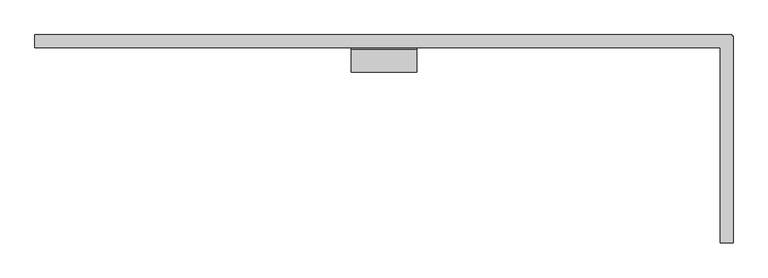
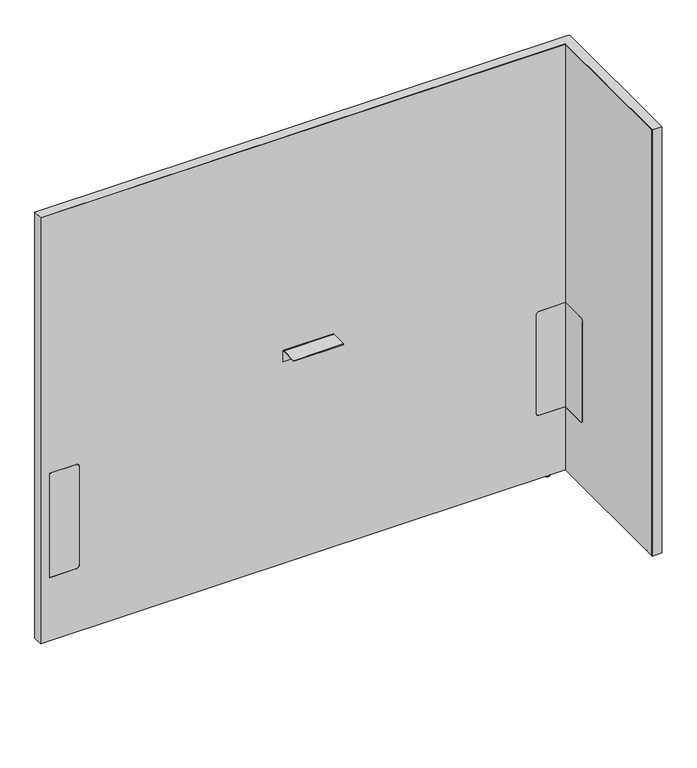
"""IFC4 building model written with IfcOpenShell, lengths in millimetres: furniture geometry, Steelcase - Answer Solution - Boundary Screen - L Return - Single Sided : 54H x 63W."""

import ifcopenshell
import ifcopenshell.guid

model = None  # the IFC model being written
_history = None  # IfcOwnerHistory: only IFC2X3 demands one
_inside = {}  # id of a spatial element -> (the spatial element, [elements in it])
_under = {}  # id of a project, library or spatial element -> (it, [spatial elements below it])
_declared = {}  # id of a project -> (the project, [libraries it declares])
_typed = {}  # id of a type object -> (the type object, [elements of that type])
_made_of = {}  # id of a material, layer set ... -> (it, [elements and type objects made of it])


def new_model(schema):
    """Start an empty IFC model of exactly this schema.

    Asked for "IFC4X3", IfcOpenShell would pick the latest addendum, in which some entities
    have other attributes; the version numbers below select the first issue.
    IFC2X3 requires an IfcOwnerHistory on every rooted entity: one is made here for all.
    """
    global model, _history
    if schema == "IFC4X3":
        model = ifcopenshell.file(schema_version=(4, 3, 0, 0))
    else:
        model = ifcopenshell.file(schema=schema)
    _inside.clear()
    _under.clear()
    _declared.clear()
    _typed.clear()
    _made_of.clear()
    _history = None
    if model.schema == "IFC2X3":
        org = make("IfcOrganization", Name="unknown")
        user = make(
            "IfcPersonAndOrganization",
            ThePerson=make("IfcPerson", FamilyName="unknown"),
            TheOrganization=org,
        )
        app = make(
            "IfcApplication",
            ApplicationDeveloper=org,
            Version="unknown",
            ApplicationFullName="unknown",
            ApplicationIdentifier="unknown",
        )
        _history = make(
            "IfcOwnerHistory",
            OwningUser=user,
            OwningApplication=app,
            ChangeAction="ADDED",
            CreationDate=0,
        )
    return model


def make(cls, **values):
    """One entity of the class cls with the attributes given. An attribute that is None is left unset."""
    return model.create_entity(
        cls, **{name: value for name, value in values.items() if value is not None}
    )


def rooted(cls, **values):
    """An entity with a GlobalId (a new one), such as an element, a storey or a relation."""
    return make(cls, GlobalId=ifcopenshell.guid.new(), OwnerHistory=_history, **values)


def si_unit(unit_type, name, prefix=None):
    """IfcSIUnit, for example si_unit("LENGTHUNIT", "METRE", prefix="MILLI")."""
    return make("IfcSIUnit", UnitType=unit_type, Prefix=prefix, Name=name)


def assignment(units):
    """IfcUnitAssignment: the units of a project."""
    return None if units is None else make("IfcUnitAssignment", Units=units)


def point(xyz):
    """IfcCartesianPoint."""
    return None if xyz is None else make("IfcCartesianPoint", Coordinates=xyz)


def direction(xyz):
    """IfcDirection."""
    return None if xyz is None else make("IfcDirection", DirectionRatios=xyz)


def frame(location, z_axis=None, x_axis=None):
    """IfcAxis2Placement3D, a coordinate frame: its origin and axes. An axis left out is left unset."""
    return make(
        "IfcAxis2Placement3D",
        Location=point(location),
        Axis=direction(z_axis),
        RefDirection=direction(x_axis),
    )


def frame_2d(location, x_axis=None):
    """IfcAxis2Placement2D, a coordinate frame in the plane: its origin and x axis."""
    return make(
        "IfcAxis2Placement2D", Location=point(location), RefDirection=direction(x_axis)
    )


def origin():
    """The frame at (0, 0, 0) with its axes left unset."""
    return frame((0.0, 0.0, 0.0))


def place(relative_to, where):
    """IfcLocalPlacement: puts the frame where relative to a parent placement (None: the world)."""
    return make(
        "IfcLocalPlacement", PlacementRelTo=relative_to, RelativePlacement=where
    )


def context(
    kind, dimensions, precision=None, world=None, true_north=None, identifier=None
):
    """IfcGeometricRepresentationContext, for example the 3D "Model" context."""
    return make(
        "IfcGeometricRepresentationContext",
        ContextIdentifier=identifier,
        ContextType=kind,
        CoordinateSpaceDimension=dimensions,
        Precision=precision,
        WorldCoordinateSystem=world,
        TrueNorth=true_north,
    )


def project(units=None, contexts=None):
    """IfcProject with its units and contexts."""
    return rooted(
        "IfcProject",
        Name="project",
        RepresentationContexts=contexts,
        UnitsInContext=assignment(units),
    )


def spatial(cls, under=None, at=None, **own):
    """A site, building, storey or space (cls), placed at a placement, below another one or the project."""
    s = rooted(cls, ObjectPlacement=at, **own)
    if under is not None:
        _under.setdefault(under.id(), (under, []))[1].append(s)
    return s


def polyline(points):
    """IfcPolyline through the points."""
    return make("IfcPolyline", Points=[point(p) for p in points])


def circle_curve(where, radius):
    """IfcCircle in the frame where."""
    return make("IfcCircle", Position=where, Radius=radius)


def ellipse_curve(where, semi_axis1, semi_axis2):
    """IfcEllipse in the frame where."""
    return make(
        "IfcEllipse", Position=where, SemiAxis1=semi_axis1, SemiAxis2=semi_axis2
    )


def trimmed(basis, trim1, trim2, sense, master):
    """IfcTrimmedCurve: the piece of a basis curve between two trims."""
    return make(
        "IfcTrimmedCurve",
        BasisCurve=basis,
        Trim1=trim1,
        Trim2=trim2,
        SenseAgreement=sense,
        MasterRepresentation=master,
    )


def segment(curve, same_sense, transition):
    """IfcCompositeCurveSegment."""
    return make(
        "IfcCompositeCurveSegment",
        Transition=transition,
        SameSense=same_sense,
        ParentCurve=curve,
    )


def composite_curve(segments, self_intersect=None):
    """IfcCompositeCurve: segments joined end to end."""
    return make("IfcCompositeCurve", Segments=segments, SelfIntersect=self_intersect)


def outline(outer, holes=None, kind="AREA"):
    """IfcArbitraryClosedProfileDef: a profile drawn as a closed curve; with holes, ...WithVoids."""
    if holes is None:
        return make("IfcArbitraryClosedProfileDef", ProfileType=kind, OuterCurve=outer)
    return make(
        "IfcArbitraryProfileDefWithVoids",
        ProfileType=kind,
        OuterCurve=outer,
        InnerCurves=holes,
    )


def extrude(swept, where, along, depth):
    """IfcExtrudedAreaSolid: the profile swept, set in the frame where, extruded along a direction by depth."""
    return make(
        "IfcExtrudedAreaSolid",
        SweptArea=swept,
        Position=where,
        ExtrudedDirection=direction(along),
        Depth=depth,
    )


def faces_of(points, faces, orient=None, outer=None):
    """IfcFace entities. A face is a list of loops; a loop is a list of indices into points, from 0.

    orient and outer hold one flag for each loop. By default every Orientation is true, the
    first loop of a face is its IfcFaceOuterBound and the others are IfcFaceBound.
    """
    made = []
    for i, loops in enumerate(faces):
        bounds = []
        for j, loop in enumerate(loops):
            is_outer = j == 0 if outer is None else outer[i][j]
            bounds.append(
                make(
                    "IfcFaceOuterBound" if is_outer else "IfcFaceBound",
                    Bound=make("IfcPolyLoop", Polygon=[points[k] for k in loop]),
                    Orientation=True if orient is None else orient[i][j],
                )
            )
        made.append(make("IfcFace", Bounds=bounds))
    return made


def faceted_brep(points, faces, orient=None, outer=None, voids=None):
    """IfcFacetedBrep: a solid bounded by flat faces; with voids (closed shells), ...WithVoids."""
    shared = [point(p) for p in points]
    hull = make("IfcClosedShell", CfsFaces=faces_of(shared, faces, orient, outer))
    if voids is None:
        return make("IfcFacetedBrep", Outer=hull)
    return make(
        "IfcFacetedBrepWithVoids",
        Outer=hull,
        Voids=[
            make(cls, CfsFaces=faces_of(shared, fs, o, b)) for cls, fs, o, b in voids
        ],
    )


def shape(context_of_items, identifier, shape_type, items):
    """IfcShapeRepresentation: the items that make up one representation, for example the "Body"."""
    return make(
        "IfcShapeRepresentation",
        ContextOfItems=context_of_items,
        RepresentationIdentifier=identifier,
        RepresentationType=shape_type,
        Items=items,
    )


def source(mapping_origin, context_of_items, identifier, shape_type, items):
    """IfcRepresentationMap: a shape defined once, which mapped items show again and again."""
    return make(
        "IfcRepresentationMap",
        MappingOrigin=mapping_origin,
        MappedRepresentation=shape(context_of_items, identifier, shape_type, items),
    )


def transform(
    local_origin,
    x_axis=None,
    y_axis=None,
    z_axis=None,
    scale=None,
    scale2=None,
    scale3=None,
    uniform=True,
):
    """IfcCartesianTransformationOperator3D, or its non-uniform kind. x_axis, y_axis, z_axis: its Axis1, 2, 3."""
    if uniform:
        return make(
            "IfcCartesianTransformationOperator3D",
            Axis1=direction(x_axis),
            Axis2=direction(y_axis),
            LocalOrigin=point(local_origin),
            Scale=scale,
            Axis3=direction(z_axis),
        )
    return make(
        "IfcCartesianTransformationOperator3DnonUniform",
        Axis1=direction(x_axis),
        Axis2=direction(y_axis),
        LocalOrigin=point(local_origin),
        Scale=scale,
        Axis3=direction(z_axis),
        Scale2=scale2,
        Scale3=scale3,
    )


def mapped(mapping_source, mapping_target):
    """IfcMappedItem: shows the shape of a source again, moved by a transform."""
    return make(
        "IfcMappedItem", MappingSource=mapping_source, MappingTarget=mapping_target
    )


def made_of(thing, what):
    """Note that an element or type object is made of a material, layer set ...; save() writes the relation."""
    if what is not None:
        _made_of.setdefault(what.id(), (what, []))[1].append(thing)
    return thing


def element(
    cls,
    number,
    at=None,
    inside=None,
    cuts=None,
    type_object=None,
    material=None,
    context=None,
    identifier="Body",
    shape_type=None,
    held_by="IfcProductDefinitionShape",
    body=None,
    shapes=None,
    **own,
):
    """One element of the class cls, such as IfcWall. Its Tag is "e" and its number.

    at: its placement. inside: the storey or other place that contains it. cuts: it is an
    opening in that element (IfcRelVoidsElement). A single representation is given by context,
    identifier, shape_type and body (its items); several are given by shapes. held_by: the class
    of the entity that holds the representations. save() writes the other relations.
    """
    e = rooted(cls, Tag="e%d" % number, ObjectPlacement=at, **own)
    if body is not None:
        shapes = [shape(context, identifier, shape_type, body)]
    if shapes is not None:
        e.Representation = make(held_by, Representations=shapes)
    if inside is not None:
        _inside.setdefault(inside.id(), (inside, []))[1].append(e)
    if cuts is not None:
        rooted(
            "IfcRelVoidsElement", RelatingBuildingElement=cuts, RelatedOpeningElement=e
        )
    if type_object is not None:
        _typed.setdefault(type_object.id(), (type_object, []))[1].append(e)
    return made_of(e, material)


def aggregate(whole, parts):
    """IfcRelAggregates: a whole, such as a stair, and the parts it consists of."""
    return rooted("IfcRelAggregates", RelatingObject=whole, RelatedObjects=parts)


def save(model, path):
    """Write the relations noted so far, then the file.

    IfcRelAggregates (storeys below a building ...), IfcRelContainedInSpatialStructure (elements
    in a storey), IfcRelDefinesByType, IfcRelAssociatesMaterial and IfcRelDeclares: one each for
    every whole, place, type object, material and project.
    """
    for whole, parts in _under.values():
        aggregate(whole, parts)
    for where, things in _inside.values():
        rooted(
            "IfcRelContainedInSpatialStructure",
            RelatedElements=things,
            RelatingStructure=where,
        )
    for kind, things in _typed.values():
        rooted("IfcRelDefinesByType", RelatedObjects=things, RelatingType=kind)
    for what, things in _made_of.values():
        rooted("IfcRelAssociatesMaterial", RelatedObjects=things, RelatingMaterial=what)
    for by, libraries in _declared.values():
        rooted("IfcRelDeclares", RelatingContext=by, RelatedDefinitions=libraries)
    model.write(path)


def plane_surface(at):
    """IfcPlane: the flat surface through the origin of the frame at, square to its z axis."""
    return make("IfcPlane", Position=at)


def cylinder_surface(at, radius):
    """IfcCylindricalSurface: all points at the distance radius from the z axis of the frame at."""
    return make("IfcCylindricalSurface", Position=at, Radius=radius)


def revolved_surface(curve, axis_point, axis_direction):
    """IfcSurfaceOfRevolution: the curve turned about the line through axis_point along axis_direction."""
    return make(
        "IfcSurfaceOfRevolution",
        SweptCurve=make("IfcArbitraryOpenProfileDef", ProfileType="CURVE", Curve=curve),
        AxisPosition=make("IfcAxis1Placement", Location=point(axis_point), Axis=direction(axis_direction)),
    )


def advanced_brep(points, edges, surfaces, faces):
    """IfcAdvancedBrep: a solid bounded by faces that lie on surfaces and meet in shared edges.

    An edge is (start, end): straight between two places in points (the first is 0);
    or (start, end, curve); or (start, end, curve, False) where it runs against its curve.
    A face is (place in surfaces, loops), or (place, loops, False) where it looks against
    its surface's normal. A loop lists edges by number (the first is 1), with a minus sign
    where the edge is run from its end to its start. The first loop is the outer one.
    """
    corners = [point(p) for p in points]
    vertices = [make("IfcVertexPoint", VertexGeometry=c) for c in corners]
    made = []
    for start, end, *more in edges:
        made.append(
            make(
                "IfcEdgeCurve",
                EdgeStart=vertices[start],
                EdgeEnd=vertices[end],
                EdgeGeometry=more[0] if more else make("IfcPolyline", Points=[corners[start], corners[end]]),
                SameSense=more[1] if len(more) > 1 else True,
            )
        )
    hull = []
    for where, loops, *sense in faces:
        bounds = []
        for j, loop in enumerate(loops):
            ring = [make("IfcOrientedEdge", EdgeElement=made[abs(k) - 1], Orientation=k > 0) for k in loop]
            bounds.append(
                make(
                    "IfcFaceOuterBound" if j == 0 else "IfcFaceBound",
                    Bound=make("IfcEdgeLoop", EdgeList=ring),
                    Orientation=True,
                )
            )
        hull.append(make("IfcAdvancedFace", Bounds=bounds, FaceSurface=surfaces[where], SameSense=sense[0] if sense else True))
    return make("IfcAdvancedBrep", Outer=make("IfcClosedShell", CfsFaces=hull))


def furniture_095c5e00(model_context):
    return source(origin(), model_context, "Body", "SolidModel", [
        extrude(outline(composite_curve([segment(polyline([(-109.3501471, 549.6162029), (-29.0550397, 549.6162029), (-29.0550397, 213.7762137), (-109.3501471, 213.7762137)]), True, "CONTINUOUS"), segment(trimmed(circle_curve(frame_2d((-109.3501471, 223.9362137)), 10.16), [point((-109.3501471, 213.7762137))], [point((-119.5101471, 223.9362137))], False, "CARTESIAN"), True, "CONTINUOUS"), segment(polyline([(-119.5101471, 223.9362137), (-119.5101471, 539.4562029)]), True, "CONTINUOUS"), segment(trimmed(circle_curve(frame_2d((-109.3501471, 539.4562029)), 10.16), [point((-119.5101471, 539.4562029))], [point((-109.3501471, 549.6162029))], False, "CARTESIAN"), True, "CONTINUOUS")], self_intersect=False)), frame((1830.0191891, 0.0, 0.0), z_axis=(1.0, 0.0, 0.0), x_axis=(0.0, 1.0, 0.0)), (0.0, 0.0, 1.0), 0.6401544),
        advanced_brep(
        [(1844.8672074, -448.0136072, 0.0), (1851.8216144, -448.0136072, 0.0), (1837.9128003, -448.0136072, 0.0), (1853.2762685, -448.0136072, 1.2700001), (1836.4581463, -448.0136072, 1.2700001), (1853.2762685, -448.0136072, 2.9673238), (1836.4581463, -448.0136072, 2.9673238), (1854.2427877, -448.0136072, 2.9673238), (1835.491627, -448.0136072, 2.9673238), (1854.2427877, -448.0136072, 9.9059849), (1835.491627, -448.0136072, 9.9059849), (1844.8672074, -448.0136072, 9.9059849)],
        [
            (0, 1),
            (1, 2, circle_curve(frame((1844.8672074, -448.0136072, 0.0), z_axis=(0.0, 0.0, -1.0), x_axis=(1.0, 0.0, 0.0)), 6.9544071)),
            (2, 0),
            (2, 1, circle_curve(frame((1844.8672074, -448.0136072, 0.0), z_axis=(0.0, 0.0, -1.0), x_axis=(1.0, 0.0, 0.0)), 6.9544071)),
            (1, 3, circle_curve(frame((1851.9945484, -448.0136072, 1.2700001), z_axis=(0.0, -1.0, 0.0), x_axis=(0.0, 0.0, 1.0)), 1.2817201)),
            (3, 4, circle_curve(frame((1844.8672074, -448.0136072, 1.2700001), z_axis=(0.0, 0.0, -1.0), x_axis=(1.0, 0.0, 0.0)), 8.4090611)),
            (4, 2, circle_curve(frame((1837.7398663, -448.0136072, 1.2700001), z_axis=(0.0, -1.0, 0.0), x_axis=(0.0, 0.0, 1.0)), 1.2817201)),
            (4, 3, circle_curve(frame((1844.8672074, -448.0136072, 1.2700001), z_axis=(0.0, 0.0, -1.0), x_axis=(1.0, 0.0, 0.0)), 8.4090611)),
            (3, 5),
            (5, 6, circle_curve(frame((1844.8672074, -448.0136072, 2.9673238), z_axis=(0.0, 0.0, -1.0), x_axis=(1.0, 0.0, 0.0)), 8.4090611)),
            (6, 4),
            (6, 5, circle_curve(frame((1844.8672074, -448.0136072, 2.9673238), z_axis=(0.0, 0.0, -1.0), x_axis=(1.0, 0.0, 0.0)), 8.4090611)),
            (5, 7),
            (7, 8, circle_curve(frame((1844.8672074, -448.0136072, 2.9673238), z_axis=(0.0, 0.0, -1.0), x_axis=(1.0, 0.0, 0.0)), 9.3755804)),
            (8, 6),
            (8, 7, circle_curve(frame((1844.8672074, -448.0136072, 2.9673238), z_axis=(0.0, 0.0, -1.0), x_axis=(1.0, 0.0, 0.0)), 9.3755804)),
            (7, 9),
            (9, 10, circle_curve(frame((1844.8672074, -448.0136072, 9.9059849), z_axis=(0.0, 0.0, -1.0), x_axis=(1.0, 0.0, 0.0)), 9.3755804)),
            (10, 8),
            (10, 9, circle_curve(frame((1844.8672074, -448.0136072, 9.9059849), z_axis=(0.0, 0.0, -1.0), x_axis=(1.0, 0.0, 0.0)), 9.3755804)),
            (9, 11),
            (11, 10),
        ],
        [
            plane_surface(frame((1844.8672074, -448.0136072, 0.0), z_axis=(0.0, 0.0, -1.0), x_axis=(1.0, 0.0, 0.0))),
            revolved_surface(trimmed(ellipse_curve(frame((1851.9945484, -448.0136072, 1.2700001), z_axis=(0.0, 1.0, 0.0), x_axis=(0.0, 0.0, 1.0)), 1.2817201, 1.2817201), [point((1853.2762685, -448.0136072, 1.2700001))], [point((1851.8216144, -448.0136072, 0.0))], True, "CARTESIAN"), (1844.8672074, -448.0136072, 9.9059849), (0.0, 0.0, -1.0)),
            cylinder_surface(frame((1844.8672074, -448.0136072, 9.9059849), z_axis=(0.0, 0.0, -1.0), x_axis=(1.0, 0.0, 0.0)), 8.4090611),
            plane_surface(frame((1844.8672074, -448.0136072, 2.9673238), z_axis=(0.0, 0.0, -1.0), x_axis=(1.0, 0.0, 0.0))),
            cylinder_surface(frame((1844.8672074, -448.0136072, 9.9059849), z_axis=(0.0, 0.0, -1.0), x_axis=(1.0, 0.0, 0.0)), 9.3755804),
            plane_surface(frame((1844.8672074, -448.0136072, 9.9059849), z_axis=(0.0, 0.0, 1.0), x_axis=(1.0, 0.0, 0.0))),
        ],
        [
            (0, [[1, 2, 3]]),
            (0, [[-3, 4, -1]]),
            (1, [[-2, 5, 6, 7]]),
            (1, [[-4, -7, 8, -5]]),
            (2, [[-6, 9, 10, 11]]),
            (2, [[-8, -11, 12, -9]]),
            (3, [[-10, 13, 14, 15]]),
            (3, [[-12, -15, 16, -13]]),
            (4, [[-14, 17, 18, 19]]),
            (4, [[-16, -19, 20, -17]]),
            (5, [[-18, 21, 22]]),
            (5, [[-20, -22, -21]]),
        ],
    ),
        faceted_brep([(1856.4531179, 0.0, 1382.522), (1856.4531179, 0.0, 9.9059849), (1855.4621491, 0.0, 9.9059849), (1855.4621491, 0.0, 1381.542118), (230.8097779, 0.0, 1381.542118), (230.8097779, 0.0, 9.9059849), (229.8191891, 0.0, 9.9059849), (229.8191891, 0.0, 1382.522), (229.8191891, -29.6898332, 1382.522), (229.8191891, -29.6898332, 9.9059849), (230.8097779, -29.6898332, 9.9059849), (230.8097779, -29.6898332, 1381.542118), (1830.0191891, -29.6898332, 1381.542118), (1830.0191891, -29.6898332, 1382.522), (1855.4621491, -29.6898332, 1381.542118), (1855.4621491, -29.6898332, 9.9059849), (1856.4531179, -29.6898332, 9.9059849), (1856.4531179, -29.6898332, 1381.542118), (1856.4531179, -3.2625916, 1382.522), (1856.4531179, -3.2625916, 9.9059849), (1856.4531179, -4.252647, 9.9059849), (1856.4531179, -4.252647, 1381.542118), (1859.7152256, -3.2625916, 9.9059849), (1859.7152256, -4.252647, 9.9059849), (1855.4621491, -4.252647, 9.9059849), (1830.0191891, -4.252647, 9.9059849), (1830.0191891, -3.2625916, 9.9059849), (1855.4621491, -3.2625916, 9.9059849), (1830.0191891, -486.8898332, 1382.522), (1859.7152256, -486.8898332, 1382.522), (1859.7152256, -3.2625916, 1382.522), (1855.4621491, -3.2625916, 1381.542118), (1855.4621491, -4.252647, 1381.542118), (1830.0191891, -3.2625916, 1381.542118), (1830.0191891, -4.252647, 1381.542118), (1859.7152256, -4.252647, 1381.542118), (1859.7152256, -485.899196, 1381.542118), (1830.0191891, -485.899196, 1381.542118), (1830.0191891, -485.899196, 9.9059849), (1830.0191891, -486.8898332, 9.9059849), (1859.7152256, -486.8898332, 9.9059849), (1859.7152256, -485.899196, 9.9059849)], [[[0, 1, 2, 3, 4, 5, 6, 7]], [[8, 9, 10, 11, 12, 13]], [[14, 15, 16, 17]], [[1, 0, 18, 19]], [[17, 16, 20, 21]], [[2, 1, 19, 22, 23, 20, 16, 15, 24, 25, 26, 27]], [[7, 6, 9, 8]], [[0, 7, 8, 13, 28, 29, 30, 18]], [[3, 2, 27, 31]], [[15, 14, 32, 24]], [[4, 3, 31, 33, 34, 32, 14, 17, 21, 35, 36, 37, 12, 11]], [[5, 4, 11, 10]], [[6, 5, 10, 9]], [[26, 25, 34, 33]], [[37, 38, 39, 28, 13, 12]], [[29, 40, 41, 36, 35, 23, 22, 30]], [[27, 26, 33, 31]], [[30, 22, 19, 18]], [[34, 25, 24, 32]], [[23, 35, 21, 20]], [[38, 37, 36, 41]], [[39, 38, 41, 40]], [[28, 39, 40, 29]]]),
        extrude(outline(composite_curve([segment(polyline([(-86.8398151, 696.4680019), (-86.8398151, 698.5), (-34.9450855, 698.5)]), True, "CONTINUOUS"), segment(trimmed(circle_curve(frame_2d((-34.9450855, 693.2447477)), 5.2552523), [point((-34.9450855, 698.5))], [point((-29.6898332, 693.2447477))], False, "CARTESIAN"), True, "CONTINUOUS"), segment(polyline([(-29.6898332, 693.2447477), (-29.6898332, 660.4), (-31.7218162, 660.4), (-31.7218162, 693.0058743)]), True, "CONTINUOUS"), segment(trimmed(circle_curve(frame_2d((-35.1839438, 693.0058743)), 3.4621276), [point((-31.7218162, 693.0058743))], [point((-35.1839438, 696.4680019))], True, "CARTESIAN"), True, "CONTINUOUS"), segment(polyline([(-35.1839438, 696.4680019), (-86.8398151, 696.4680019)]), True, "CONTINUOUS")], self_intersect=False)), frame((968.5685899, 0.0, 0.0), z_axis=(1.0, 0.0, 0.0), x_axis=(0.0, 1.0, 0.0)), (0.0, 0.0, 1.0), 152.4000969),
        advanced_brep(
        [(1782.5246853, -23.7588726, 9.9059849), (1782.5246853, -5.9309607, 9.9059849), (1782.5246853, -14.8449166, 9.9059849), (1782.5246853, -23.7588726, 2.9673238), (1782.5246853, -5.9309607, 2.9673238), (1782.5246853, -22.7915354, 2.9673238), (1782.5246853, -6.8982978, 2.9673238), (1782.5246853, -22.7915354, 1.6569081), (1782.5246853, -6.8982978, 1.6569081), (1782.5246853, -21.1346274, 0.0), (1782.5246853, -8.5552059, 0.0), (1782.5246853, -14.8449166, 0.0)],
        [
            (0, 1, circle_curve(frame((1782.5246853, -14.8449166, 9.9059849), z_axis=(0.0, 0.0, 1.0), x_axis=(0.0, 1.0, 0.0)), 8.913956)),
            (1, 2),
            (2, 0),
            (1, 0, circle_curve(frame((1782.5246853, -14.8449166, 9.9059849), z_axis=(0.0, 0.0, 1.0), x_axis=(0.0, 1.0, 0.0)), 8.913956)),
            (3, 4, circle_curve(frame((1782.5246853, -14.8449166, 2.9673238), z_axis=(0.0, 0.0, 1.0), x_axis=(0.0, 1.0, 0.0)), 8.913956)),
            (4, 1),
            (0, 3),
            (4, 3, circle_curve(frame((1782.5246853, -14.8449166, 2.9673238), z_axis=(0.0, 0.0, 1.0), x_axis=(0.0, 1.0, 0.0)), 8.913956)),
            (5, 6, circle_curve(frame((1782.5246853, -14.8449166, 2.9673238), z_axis=(0.0, 0.0, 1.0), x_axis=(0.0, 1.0, 0.0)), 7.9466188)),
            (6, 4),
            (3, 5),
            (6, 5, circle_curve(frame((1782.5246853, -14.8449166, 2.9673238), z_axis=(0.0, 0.0, 1.0), x_axis=(0.0, 1.0, 0.0)), 7.9466188)),
            (7, 8, circle_curve(frame((1782.5246853, -14.8449166, 1.6569081), z_axis=(0.0, 0.0, 1.0), x_axis=(0.0, 1.0, 0.0)), 7.9466188)),
            (8, 6),
            (5, 7),
            (8, 7, circle_curve(frame((1782.5246853, -14.8449166, 1.6569081), z_axis=(0.0, 0.0, 1.0), x_axis=(0.0, 1.0, 0.0)), 7.9466188)),
            (9, 10, circle_curve(frame((1782.5246853, -14.8449166, 0.0), z_axis=(0.0, 0.0, 1.0), x_axis=(0.0, 1.0, 0.0)), 6.2897107)),
            (10, 8, circle_curve(frame((1782.5246853, -8.5552059, 1.6569081), z_axis=(1.0, 0.0, 0.0), x_axis=(0.0, 1.0, 0.0)), 1.6569081)),
            (7, 9, circle_curve(frame((1782.5246853, -21.1346274, 1.6569081), z_axis=(1.0, 0.0, 0.0), x_axis=(0.0, -1.0, 0.0)), 1.6569081)),
            (10, 9, circle_curve(frame((1782.5246853, -14.8449166, 0.0), z_axis=(0.0, 0.0, 1.0), x_axis=(0.0, 1.0, 0.0)), 6.2897107)),
            (11, 10),
            (9, 11),
        ],
        [
            plane_surface(frame((1782.5246853, -14.8449166, 9.9059849), z_axis=(0.0, 0.0, 1.0), x_axis=(0.0, 1.0, 0.0))),
            cylinder_surface(frame((1782.5246853, -14.8449166, 9.9059849), z_axis=(0.0, 0.0, -1.0), x_axis=(0.0, 1.0, 0.0)), 8.913956),
            plane_surface(frame((1782.5246853, -14.8449166, 2.9673238), z_axis=(0.0, 0.0, -1.0), x_axis=(0.0, 1.0, 0.0))),
            cylinder_surface(frame((1782.5246853, -14.8449166, 9.9059849), z_axis=(0.0, 0.0, -1.0), x_axis=(0.0, 1.0, 0.0)), 7.9466188),
            revolved_surface(trimmed(ellipse_curve(frame((1782.5246853, -8.5552059, 1.6569081), z_axis=(-1.0, 0.0, 0.0), x_axis=(0.0, 1.0, 0.0)), 1.6569081, 1.6569081), [point((1782.5246853, -6.8982978, 1.6569081))], [point((1782.5246853, -8.5552059, 0.0))], True, "CARTESIAN"), (1782.5246853, -14.8449166, 9.9059849), (0.0, 0.0, -1.0)),
            plane_surface(frame((1782.5246853, -14.8449166, 0.0), z_axis=(0.0, 0.0, -1.0), x_axis=(0.0, 1.0, 0.0))),
        ],
        [
            (0, [[1, 2, 3]]),
            (0, [[4, -3, -2]]),
            (1, [[5, 6, -1, 7]]),
            (1, [[8, -7, -4, -6]]),
            (2, [[9, 10, -5, 11]]),
            (2, [[12, -11, -8, -10]]),
            (3, [[13, 14, -9, 15]]),
            (3, [[16, -15, -12, -14]]),
            (4, [[17, 18, -13, 19]]),
            (4, [[20, -19, -16, -18]]),
            (5, [[21, -17, 22]]),
            (5, [[-22, -20, -21]]),
        ],
    ),
        advanced_brep(
        [(230.8097779, 0.0, 1381.542118), (1855.4621491, 0.0, 1381.542118), (1855.4621491, 0.0, 9.9059849), (230.8097779, 0.0, 9.9059849), (347.9483813, -29.0550397, 539.4562029), (337.7883813, -29.0550397, 549.6162029), (258.1344836, -29.0550397, 549.6162029), (258.1344836, -29.0550397, 213.7762137), (337.7883813, -29.0550397, 213.7762137), (347.9483813, -29.0550397, 223.9362137), (1830.6593435, -29.0550397, 213.7762137), (1830.6593435, -29.0550397, 549.6162029), (1750.1109268, -29.0550397, 549.6162029), (1739.9509268, -29.0550397, 539.4562029), (1739.9509268, -29.0550397, 223.9362137), (1750.1109268, -29.0550397, 213.7762137), (230.8097779, -29.6898332, 1381.542118), (230.8097779, -29.6898332, 9.9059849), (1830.0191891, -29.6898332, 9.9059849), (1830.0191891, -29.6898332, 213.7762137), (1750.1109268, -29.6898332, 213.7762137), (1739.9509268, -29.6898332, 223.9362137), (1739.9509268, -29.6898332, 539.4562029), (1750.1109268, -29.6898332, 549.6162029), (1830.0191891, -29.6898332, 549.6162029), (1830.0191891, -29.6898332, 1381.542118), (337.7883813, -29.6898332, 549.6162029), (347.9483813, -29.6898332, 539.4562029), (347.9483813, -29.6898332, 223.9362137), (337.7883813, -29.6898332, 213.7762137), (258.1344836, -29.6898332, 213.7762137), (258.1344836, -29.6898332, 549.6162029), (1855.4621491, -4.252647, 9.9059849), (1859.7152256, -4.252647, 9.9059849), (1859.7152256, -485.899196, 9.9059849), (1830.0191891, -485.899196, 9.9059849), (1855.4621491, -4.252647, 1381.542118), (1830.0191891, -485.899196, 1381.542118), (1859.7152256, -485.899196, 1381.542118), (1859.7152256, -4.252647, 1381.542118), (1830.6593435, -109.3501471, 549.6162029), (1830.0191891, -109.3501471, 549.6162029), (1830.6593435, -109.3501471, 213.7762137), (1830.6593435, -119.5101471, 223.9362137), (1830.6593435, -119.5101471, 539.4562029), (1830.0191891, -109.3501471, 213.7762137), (1830.0191891, -119.5101471, 539.4562029), (1830.0191891, -119.5101471, 223.9362137)],
        [
            (0, 1),
            (1, 2),
            (2, 3),
            (3, 0),
            (4, 5, circle_curve(frame((337.7883813, -29.0550397, 539.4562029), z_axis=(0.0, -1.0, 0.0), x_axis=(0.0, 0.0, 1.0)), 10.16)),
            (5, 6),
            (6, 7),
            (7, 8),
            (8, 9, circle_curve(frame((337.7883813, -29.0550397, 223.9362137), z_axis=(0.0, -1.0, 0.0), x_axis=(0.0, 0.0, 1.0)), 10.16)),
            (9, 4),
            (10, 11),
            (11, 12),
            (12, 13, circle_curve(frame((1750.1109268, -29.0550397, 539.4562029), z_axis=(0.0, -1.0, 0.0), x_axis=(0.0, 0.0, 1.0)), 10.16)),
            (13, 14),
            (14, 15, circle_curve(frame((1750.1109268, -29.0550397, 223.9362137), z_axis=(0.0, -1.0, 0.0), x_axis=(0.0, 0.0, 1.0)), 10.16)),
            (15, 10),
            (16, 17),
            (17, 18),
            (18, 19),
            (19, 20),
            (20, 21, circle_curve(frame((1750.1109268, -29.6898332, 223.9362137), z_axis=(0.0, 1.0, 0.0), x_axis=(0.0, 0.0, 1.0)), 10.16)),
            (21, 22),
            (22, 23, circle_curve(frame((1750.1109268, -29.6898332, 539.4562029), z_axis=(0.0, 1.0, 0.0), x_axis=(0.0, 0.0, 1.0)), 10.16)),
            (23, 24),
            (24, 25),
            (25, 16),
            (26, 27, circle_curve(frame((337.7883813, -29.6898332, 539.4562029), z_axis=(0.0, 1.0, 0.0), x_axis=(0.0, 0.0, 1.0)), 10.16)),
            (27, 28),
            (28, 29, circle_curve(frame((337.7883813, -29.6898332, 223.9362137), z_axis=(0.0, 1.0, 0.0), x_axis=(0.0, 0.0, 1.0)), 10.16)),
            (29, 30),
            (30, 31),
            (31, 26),
            (16, 0),
            (3, 17),
            (2, 32),
            (32, 33),
            (33, 34),
            (34, 35),
            (35, 18),
            (1, 36),
            (36, 32),
            (25, 37),
            (37, 38),
            (38, 39),
            (39, 36),
            (26, 5),
            (4, 27),
            (9, 28),
            (8, 29),
            (7, 30),
            (6, 31),
            (11, 40),
            (40, 41),
            (41, 24),
            (23, 12),
            (42, 43, circle_curve(frame((1830.6593435, -109.3501471, 223.9362137), z_axis=(-1.0, 0.0, 0.0), x_axis=(0.0, 1.0, 0.0)), 10.16)),
            (43, 44),
            (44, 40, circle_curve(frame((1830.6593435, -109.3501471, 539.4562029), z_axis=(-1.0, 0.0, 0.0), x_axis=(0.0, 1.0, 0.0)), 10.16)),
            (10, 42),
            (15, 20),
            (19, 45),
            (45, 42),
            (14, 21),
            (13, 22),
            (35, 37),
            (41, 46, circle_curve(frame((1830.0191891, -109.3501471, 539.4562029), z_axis=(1.0, 0.0, 0.0), x_axis=(0.0, 1.0, 0.0)), 10.16)),
            (46, 47),
            (47, 45, circle_curve(frame((1830.0191891, -109.3501471, 223.9362137), z_axis=(1.0, 0.0, 0.0), x_axis=(0.0, 1.0, 0.0)), 10.16)),
            (38, 34),
            (33, 39),
            (44, 46),
            (43, 47),
        ],
        [
            plane_surface(frame((347.9483813, 0.0, 549.6162029), z_axis=(0.0, 1.0, 0.0), x_axis=(0.0, 0.0, -1.0))),
            plane_surface(frame((347.9483813, -29.0550397, 549.6162029), z_axis=(0.0, -1.0, 0.0), x_axis=(0.0, 0.0, 1.0))),
            plane_surface(frame((1855.4621491, -29.6898332, 1381.542118), z_axis=(0.0, -1.0, 0.0), x_axis=(-1.0, 0.0, 0.0))),
            plane_surface(frame((230.8097779, 0.0, 9.9059849), z_axis=(-1.0, 0.0, 0.0), x_axis=(0.0, -1.0, 0.0))),
            plane_surface(frame((1855.4621491, 0.0, 9.9059849), z_axis=(0.0, 0.0, -1.0), x_axis=(0.0, -1.0, 0.0))),
            plane_surface(frame((1855.4621491, 0.0, 1381.542118), z_axis=(1.0, 0.0, 0.0), x_axis=(0.0, -1.0, 0.0))),
            plane_surface(frame((230.8097779, 0.0, 1381.542118), z_axis=(0.0, 0.0, 1.0), x_axis=(0.0, -1.0, 0.0))),
            revolved_surface(polyline([(337.7883813, -29.6898332, 549.6162029), (337.7883813, -29.0550397, 549.6162029)]), (337.7883813, -29.6898332, 539.4562029), (0.0, -1.0, 0.0)),
            plane_surface(frame((347.9483813, 0.0, 223.9362137), z_axis=(-1.0, 0.0, 0.0), x_axis=(0.0, -1.0, 0.0))),
            revolved_surface(polyline([(337.7883813, -29.6898332, 234.0962137), (337.7883813, -29.0550397, 234.0962137)]), (337.7883813, -29.6898332, 223.9362137), (0.0, -1.0, 0.0)),
            plane_surface(frame((258.1344836, 0.0, 213.7762137), z_axis=(0.0, 0.0, 1.0), x_axis=(0.0, -1.0, 0.0))),
            plane_surface(frame((258.1344836, 0.0, 549.6162029), z_axis=(1.0, 0.0, 0.0), x_axis=(0.0, -1.0, 0.0))),
            plane_surface(frame((337.7883813, 0.0, 549.6162029), z_axis=(0.0, 0.0, -1.0), x_axis=(0.0, -1.0, 0.0))),
            plane_surface(frame((1830.6593435, 0.0, 549.6162029), z_axis=(0.0, 0.0, -1.0), x_axis=(0.0, -1.0, 0.0))),
            plane_surface(frame((1830.6593435, 0.0, 213.7762137), z_axis=(-1.0, 0.0, 0.0), x_axis=(0.0, -1.0, 0.0))),
            plane_surface(frame((1750.1109268, 0.0, 213.7762137), z_axis=(0.0, 0.0, 1.0), x_axis=(0.0, -1.0, 0.0))),
            revolved_surface(polyline([(1750.1109268, -29.6898332, 234.0962137), (1750.1109268, -29.0550397, 234.0962137)]), (1750.1109268, -29.6898332, 223.9362137), (0.0, -1.0, 0.0)),
            plane_surface(frame((1739.9509268, 0.0, 539.4562029), z_axis=(1.0, 0.0, 0.0), x_axis=(0.0, -1.0, 0.0))),
            revolved_surface(polyline([(1750.1109268, -29.6898332, 549.6162029), (1750.1109268, -29.0550397, 549.6162029)]), (1750.1109268, -29.6898332, 539.4562029), (0.0, -1.0, 0.0)),
            plane_surface(frame((1830.0191891, -485.899196, 1381.542118), z_axis=(-1.0, 0.0, 0.0), x_axis=(0.0, 0.0, 1.0))),
            plane_surface(frame((1859.7152256, -485.899196, 1381.542118), z_axis=(1.0, 0.0, 0.0), x_axis=(0.0, 0.0, -1.0))),
            plane_surface(frame((1859.7152256, -4.252647, 9.9059849), z_axis=(0.0, 1.0, 0.0), x_axis=(-1.0, 0.0, 0.0))),
            plane_surface(frame((1859.7152256, -485.899196, 1381.542118), z_axis=(0.0, -1.0, 0.0), x_axis=(-1.0, 0.0, 0.0))),
            revolved_surface(polyline([(1830.0191890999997, -99.1901471, 539.4562029), (1830.6593434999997, -99.1901471, 539.4562029)]), (-340.6902705, -109.3501471, 539.4562029), (-1.0, 0.0, 0.0)),
            plane_surface(frame((1859.7152256, -119.5101471, 223.9362137), z_axis=(0.0, 1.0, 0.0), x_axis=(-1.0, 0.0, 0.0))),
            revolved_surface(polyline([(1830.0191890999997, -99.1901471, 223.9362137), (1830.6593434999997, -99.1901471, 223.9362137)]), (-340.6902705, -109.3501471, 223.9362137), (-1.0, 0.0, 0.0)),
        ],
        [
            (0, [[1, 2, 3, 4]]),
            (1, [[5, 6, 7, 8, 9, 10]]),
            (1, [[11, 12, 13, 14, 15, 16]]),
            (2, [[17, 18, 19, 20, 21, 22, 23, 24, 25, 26], [27, 28, 29, 30, 31, 32]]),
            (3, [[-17, 33, -4, 34]]),
            (4, [[-3, 35, 36, 37, 38, 39, -18, -34]]),
            (5, [[-2, 40, 41, -35]]),
            (6, [[-1, -33, -26, 42, 43, 44, 45, -40]]),
            (7, [[-27, 46, -5, 47]]),
            (8, [[-28, -47, -10, 48]]),
            (9, [[-29, -48, -9, 49]]),
            (10, [[-30, -49, -8, 50]]),
            (11, [[-31, -50, -7, 51]]),
            (12, [[-32, -51, -6, -46]]),
            (13, [[52, 53, 54, -24, 55, -12]]),
            (14, [[56, 57, 58, -52, -11, 59]]),
            (15, [[-59, -16, 60, -20, 61, 62]]),
            (16, [[-21, -60, -15, 63]]),
            (17, [[-22, -63, -14, 64]]),
            (18, [[-23, -64, -13, -55]]),
            (19, [[65, -42, -25, -54, 66, 67, 68, -61, -19, -39]]),
            (20, [[69, -37, 70, -44]]),
            (21, [[-70, -36, -41, -45]]),
            (22, [[-65, -38, -69, -43]]),
            (23, [[-66, -53, -58, 71]]),
            (24, [[-67, -71, -57, 72]]),
            (25, [[-68, -72, -56, -62]]),
        ],
    ),
        extrude(outline(composite_curve([segment(polyline([(549.6162029, 337.7883813), (549.6162029, 258.1344836), (213.7762137, 258.1344836), (213.7762137, 337.7883813)]), True, "CONTINUOUS"), segment(trimmed(circle_curve(frame_2d((223.9362137, 337.7883813)), 10.16), [point((213.7762137, 337.7883813))], [point((223.9362137, 347.9483813))], False, "CARTESIAN"), True, "CONTINUOUS"), segment(polyline([(223.9362137, 347.9483813), (539.4562029, 347.9483813)]), True, "CONTINUOUS"), segment(trimmed(circle_curve(frame_2d((539.4562029, 337.7883813)), 10.16), [point((539.4562029, 347.9483813))], [point((549.6162029, 337.7883813))], False, "CARTESIAN"), True, "CONTINUOUS")], self_intersect=False)), frame((0.0, -29.6898332, 0.0), z_axis=(0.0, 1.0, 0.0), x_axis=(0.0, 0.0, 1.0)), (0.0, 0.0, 1.0), 0.6347935),
        extrude(outline(composite_curve([segment(trimmed(circle_curve(frame_2d((539.4562029, 1750.1109268)), 10.16), [point((549.6162029, 1750.1109268))], [point((539.4562029, 1739.9509268))], False, "CARTESIAN"), True, "CONTINUOUS"), segment(polyline([(539.4562029, 1739.9509268), (223.9362137, 1739.9509268)]), True, "CONTINUOUS"), segment(trimmed(circle_curve(frame_2d((223.9362137, 1750.1109268)), 10.16), [point((223.9362137, 1739.9509268))], [point((213.7762137, 1750.1109268))], False, "CARTESIAN"), True, "CONTINUOUS"), segment(polyline([(213.7762137, 1750.1109268), (213.7762137, 1830.0191891), (549.6162029, 1830.0191891), (549.6162029, 1750.1109268)]), True, "CONTINUOUS")], self_intersect=False)), frame((0.0, -29.6898332, 0.0), z_axis=(0.0, 1.0, 0.0), x_axis=(0.0, 0.0, 1.0)), (0.0, 0.0, 1.0), 0.6347935),
    ])


if __name__ == "__main__":
    model = new_model("IFC4")
    model_context = context("Model", 3, world=origin())
    ifc_project = project(units=[si_unit("LENGTHUNIT", "METRE", prefix="MILLI")], contexts=[model_context])
    site = spatial("IfcSite", under=ifc_project)
    building = spatial("IfcBuilding", under=site)
    placement = place(None, origin())
    furniture_shape = furniture_095c5e00(model_context)
    element("IfcFurniture", 1, ObjectType="Steelcase - Answer Solution - Boundary Screen - L Return - Single Sided : 54H x 63W", at=placement, inside=building, context=model_context, shape_type="MappedRepresentation", body=[
        mapped(furniture_shape, transform((0.0, 0.0, 0.0), x_axis=(1.0, 0.0, 0.0), y_axis=(0.0, 1.0, 0.0), z_axis=(0.0, 0.0, 1.0))),
    ])
    save(model, "model.ifc")
